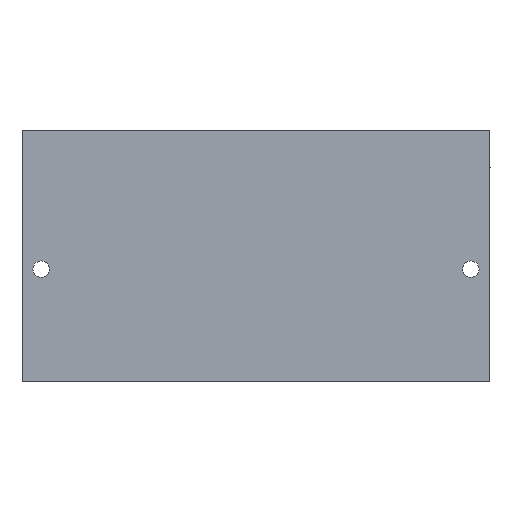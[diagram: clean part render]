
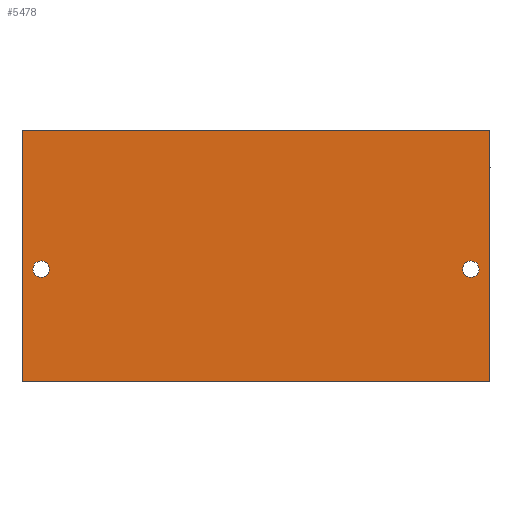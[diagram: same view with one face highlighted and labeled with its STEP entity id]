
A CAD part, front view. The second image highlights one B-rep face of the part: STEP entity #5478.
In plain terms, the highlighted planar face has unit normal (0, -1, 0).
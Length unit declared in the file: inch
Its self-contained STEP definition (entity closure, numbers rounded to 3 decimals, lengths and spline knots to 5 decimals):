
#56 = VERTEX_POINT ( 'NONE', #7292 ) ;
#362 = ORIENTED_EDGE ( 'NONE', *, *, #8471, .T. ) ;
#1072 = VERTEX_POINT ( 'NONE', #13684 ) ;
#1278 = DIRECTION ( 'NONE',  ( 0., 0., 1. ) ) ;
#1596 = LINE ( 'NONE', #12740, #10824 ) ;
#2197 = VECTOR ( 'NONE', #3278, 39.37008 ) ;
#2211 = ORIENTED_EDGE ( 'NONE', *, *, #8469, .T. ) ;
#2302 = CARTESIAN_POINT ( 'NONE',  ( 9.75, 0., 0. ) ) ;
#2414 = AXIS2_PLACEMENT_3D ( 'NONE', #15919, #8976, #1278 ) ;
#2494 = AXIS2_PLACEMENT_3D ( 'NONE', #13328, #6206, #14521 ) ;
#2621 = ORIENTED_EDGE ( 'NONE', *, *, #12183, .T. ) ;
#3032 = VERTEX_POINT ( 'NONE', #8067 ) ;
#3278 = DIRECTION ( 'NONE',  ( 0., 0., -1. ) ) ;
#3506 = VERTEX_POINT ( 'NONE', #15276 ) ;
#4105 = VERTEX_POINT ( 'NONE', #7220 ) ;
#4124 = DIRECTION ( 'NONE',  ( -1., 0., 0. ) ) ;
#4236 = CARTESIAN_POINT ( 'NONE',  ( 9.75, 0., -5.25 ) ) ;
#4928 = FACE_OUTER_BOUND ( 'NONE', #12026, .T. ) ;
#5102 = AXIS2_PLACEMENT_3D ( 'NONE', #8203, #8154, #8103 ) ;
#5118 = AXIS2_PLACEMENT_3D ( 'NONE', #7680, #7531, #7239 ) ;
#5469 = ORIENTED_EDGE ( 'NONE', *, *, #8522, .T. ) ;
#5478 = ADVANCED_FACE ( 'NONE', ( #11736, #11388, #4928 ), #7049, .F. ) ;
#5503 = CARTESIAN_POINT ( 'NONE',  ( 0., 0., 0. ) ) ;
#5808 = CIRCLE ( 'NONE', #2414, 0.172 ) ;
#5910 = DIRECTION ( 'NONE',  ( 0., 0., -1. ) ) ;
#6046 = LINE ( 'NONE', #4236, #12399 ) ;
#6073 = ORIENTED_EDGE ( 'NONE', *, *, #8421, .T. ) ;
#6206 = DIRECTION ( 'NONE',  ( 0., 1., 0. ) ) ;
#6212 = CARTESIAN_POINT ( 'NONE',  ( 9.75, 0., 0. ) ) ;
#6988 = CARTESIAN_POINT ( 'NONE',  ( 0., 0., 0. ) ) ;
#6994 = DIRECTION ( 'NONE',  ( 0., 0., 1. ) ) ;
#7012 = DIRECTION ( 'NONE',  ( 0., 1., 0. ) ) ;
#7049 = PLANE ( 'NONE',  #8131 ) ;
#7061 = VERTEX_POINT ( 'NONE', #6212 ) ;
#7096 = VERTEX_POINT ( 'NONE', #5503 ) ;
#7157 = CARTESIAN_POINT ( 'NONE',  ( 9.75, 0., 0. ) ) ;
#7220 = CARTESIAN_POINT ( 'NONE',  ( 0., 0., -5.25 ) ) ;
#7239 = DIRECTION ( 'NONE',  ( 0., 0., 1. ) ) ;
#7280 = EDGE_LOOP ( 'NONE', ( #362, #10839 ) ) ;
#7292 = CARTESIAN_POINT ( 'NONE',  ( 0.4, 0., -2.728 ) ) ;
#7531 = DIRECTION ( 'NONE',  ( 0., 1., 0. ) ) ;
#7678 = EDGE_LOOP ( 'NONE', ( #2211, #2621 ) ) ;
#7680 = CARTESIAN_POINT ( 'NONE',  ( 9.35, 0., -2.9 ) ) ;
#8067 = CARTESIAN_POINT ( 'NONE',  ( 9.75, 0., -5.25 ) ) ;
#8103 = DIRECTION ( 'NONE',  ( 0., 0., 1. ) ) ;
#8131 = AXIS2_PLACEMENT_3D ( 'NONE', #7157, #7012, #6994 ) ;
#8154 = DIRECTION ( 'NONE',  ( 0., 1., 0. ) ) ;
#8203 = CARTESIAN_POINT ( 'NONE',  ( 0.4, 0., -2.9 ) ) ;
#8421 = EDGE_CURVE ( 'NONE', #7061, #7096, #1596, .T. ) ;
#8469 = EDGE_CURVE ( 'NONE', #56, #9812, #10458, .T. ) ;
#8471 = EDGE_CURVE ( 'NONE', #1072, #3506, #10097, .T. ) ;
#8522 = EDGE_CURVE ( 'NONE', #7096, #4105, #15535, .T. ) ;
#8539 = EDGE_CURVE ( 'NONE', #3032, #4105, #6046, .T. ) ;
#8567 = EDGE_CURVE ( 'NONE', #7061, #3032, #8626, .T. ) ;
#8626 = LINE ( 'NONE', #2302, #2197 ) ;
#8976 = DIRECTION ( 'NONE',  ( 0., 1., 0. ) ) ;
#9212 = ORIENTED_EDGE ( 'NONE', *, *, #8539, .F. ) ;
#9365 = VECTOR ( 'NONE', #5910, 39.37008 ) ;
#9812 = VERTEX_POINT ( 'NONE', #10539 ) ;
#10097 = CIRCLE ( 'NONE', #5118, 0.172 ) ;
#10458 = CIRCLE ( 'NONE', #5102, 0.172 ) ;
#10539 = CARTESIAN_POINT ( 'NONE',  ( 0.4, 0., -3.072 ) ) ;
#10607 = CIRCLE ( 'NONE', #2494, 0.172 ) ;
#10824 = VECTOR ( 'NONE', #12352, 39.37008 ) ;
#10839 = ORIENTED_EDGE ( 'NONE', *, *, #12077, .T. ) ;
#11388 = FACE_BOUND ( 'NONE', #7280, .T. ) ;
#11705 = ORIENTED_EDGE ( 'NONE', *, *, #8567, .F. ) ;
#11736 = FACE_BOUND ( 'NONE', #7678, .T. ) ;
#12026 = EDGE_LOOP ( 'NONE', ( #5469, #9212, #11705, #6073 ) ) ;
#12077 = EDGE_CURVE ( 'NONE', #3506, #1072, #10607, .T. ) ;
#12183 = EDGE_CURVE ( 'NONE', #9812, #56, #5808, .T. ) ;
#12352 = DIRECTION ( 'NONE',  ( -1., 0., 0. ) ) ;
#12399 = VECTOR ( 'NONE', #4124, 39.37008 ) ;
#12740 = CARTESIAN_POINT ( 'NONE',  ( 9.75, 0., 0. ) ) ;
#13328 = CARTESIAN_POINT ( 'NONE',  ( 9.35, 0., -2.9 ) ) ;
#13684 = CARTESIAN_POINT ( 'NONE',  ( 9.35, 0., -2.728 ) ) ;
#14521 = DIRECTION ( 'NONE',  ( 0., 0., 1. ) ) ;
#15276 = CARTESIAN_POINT ( 'NONE',  ( 9.35, 0., -3.072 ) ) ;
#15535 = LINE ( 'NONE', #6988, #9365 ) ;
#15919 = CARTESIAN_POINT ( 'NONE',  ( 0.4, 0., -2.9 ) ) ;
